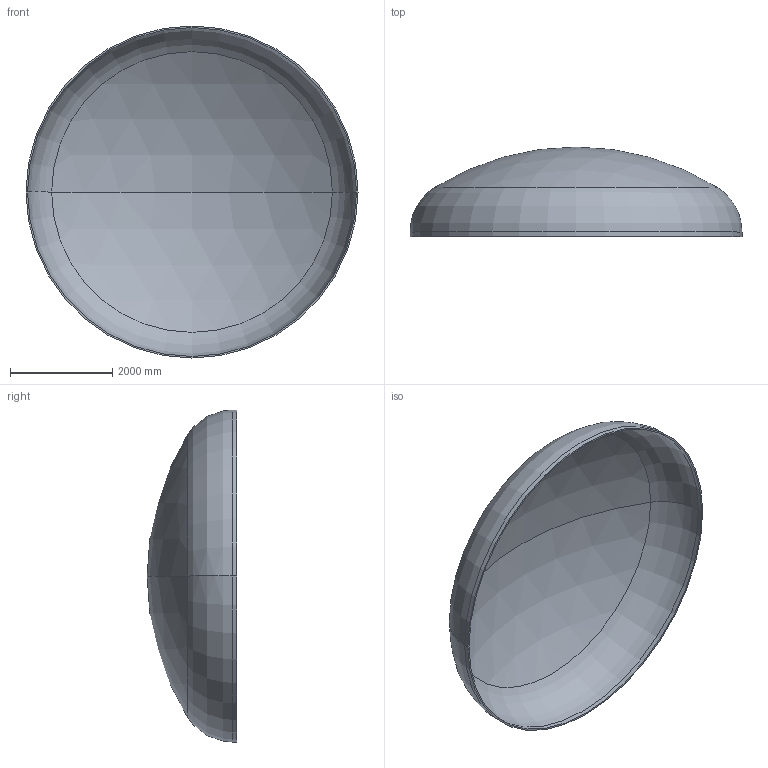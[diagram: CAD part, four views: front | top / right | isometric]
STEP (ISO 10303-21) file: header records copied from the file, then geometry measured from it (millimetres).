
FILE_DESCRIPTION (( 'STEP AP203' ), '1' );
FILE_NAME ('DIN 28013 Korbbogenform_-_Boden DIN 28013 - 6500 x 90 - I - s=30.step', '2016-07-04T10:41:06', ( '' ), ( '' ), 'SwSTEP 2.0', 'SolidWorks 2013', '' );
FILE_SCHEMA (( 'CONFIG_CONTROL_DESIGN' ));
Length unit declared in the file: millimetre
Products named in the file (1): DIN 28013 Korbbogenform_-_Boden DIN 28013 - 6500 x 90 - I - s=30
Bounding box: 6500 x 1754.67 x 6500 mm (x, y, z)
Volume: 1425025604.2 mm3; surface area: 95613337.1 mm2
Topology: 1 solids, 1 shells, 13 faces, 24 edges, 14 vertices
Faces by surface type: torus 4, cylinder 4, sphere 4, plane 1
Entity records: 407 total; most frequent: DIRECTION 72, CARTESIAN_POINT 52, ORIENTED_EDGE 48, AXIS2_PLACEMENT_3D 34, EDGE_CURVE 24, CIRCLE 20, EDGE_LOOP 14, VERTEX_POINT 14
